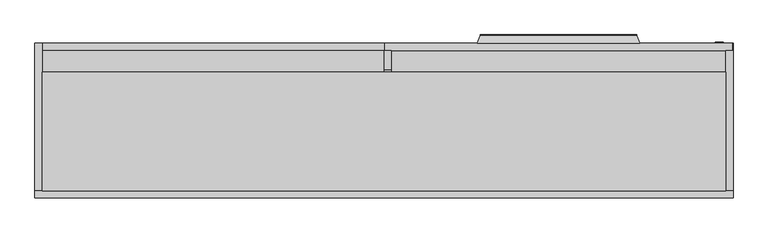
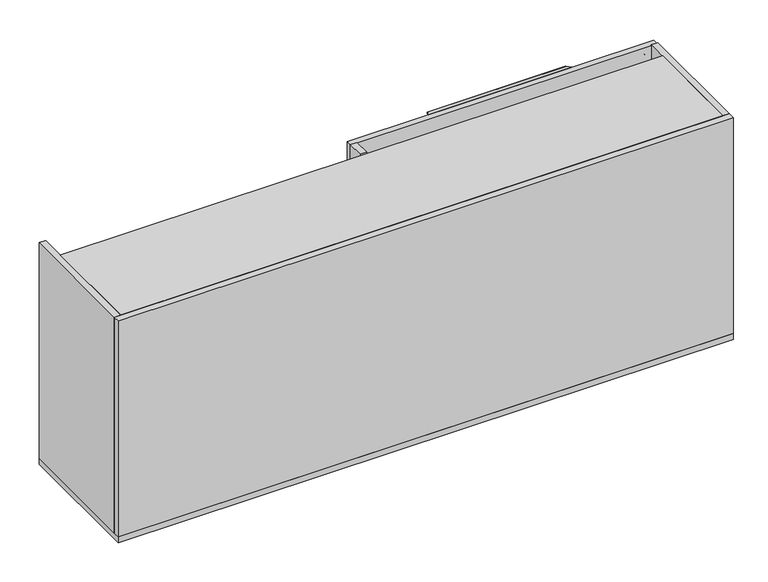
"""IFC4 building model written with IfcOpenShell, lengths in millimetres: furniture geometry, Haworth_BeHold_Modular_AttachedCredenza_StorageEnd : 2H - 72w - 36w Open - Proud Back."""

from ifc_helpers import new_model, si_unit, point, frame, frame_2d, origin, origin_with_axes, place, context, project, spatial, polyline, circle_curve, ellipse_curve, trimmed, segment, composite_curve, outline, extrude, source, transform, mapped, element, save
from ifc_brep_helpers import plane_surface, cylinder_surface, revolved_surface, advanced_brep


def furniture_0f168e3d(model_context):
    return source(origin(), model_context, "Body", "SolidModel", [
        advanced_brep(
        [(87.6158447, 495.3, 706.6279922), (94.220792, 513.44585, 696.4887354), (506.4608973, 513.44585, 696.4887354), (513.0658447, 495.3, 706.6279922), (513.0658447, 495.3, 708.025), (87.6158447, 495.3, 708.025), (505.7104778, 515.5074865, 701.1098982), (94.9712116, 515.5074865, 701.1098982)],
        [
            (0, 1),
            (1, 2),
            (2, 3),
            (3, 0),
            (3, 4),
            (4, 5),
            (5, 0),
            (4, 6),
            (6, 7),
            (7, 5),
            (1, 7, ellipse_curve(frame((94.6718293, 514.6849901, 698.7063783), z_axis=(0.9396859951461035, -0.34203834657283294, 0.0), x_axis=(0.3420383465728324, 0.9396859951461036, 0.0)), 2.7034093, 2.5403559)),
            (6, 2, ellipse_curve(frame((506.00986, 514.6849901, 698.7063783), z_axis=(-0.9396859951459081, -0.3420383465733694, 0.0), x_axis=(0.34203834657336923, -0.9396859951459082, 0.0)), 2.7034093, 2.5403559)),
        ],
        [
            plane_surface(frame((513.0658447, 513.44585, 696.4887354), z_axis=(0.0, -0.4877820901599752, -0.8729654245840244), x_axis=(-1.0, 0.0, 0.0))),
            plane_surface(frame((513.0658447, 495.3, 706.6279922), z_axis=(0.0, -1.0, 0.0), x_axis=(-1.0, 0.0, 0.0))),
            plane_surface(frame((513.0658447, 495.3, 708.025), z_axis=(0.0, 0.32377211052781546, 0.9461350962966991), x_axis=(-1.0, 0.0, 0.0))),
            cylinder_surface(frame((513.0658447, 514.6849901, 698.7063783), z_axis=(1.0, 0.0, 0.0), x_axis=(0.0, 1.0, 0.0)), 2.5403559),
            plane_surface(frame((96.1871678, 518.8480975, 720.725), z_axis=(-0.9396859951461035, 0.34203834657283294, 0.0), x_axis=(0.0, 0.0, -1.0))),
            plane_surface(frame((513.0658447, 495.3, 720.725), z_axis=(0.9396859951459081, 0.3420383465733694, 0.0), x_axis=(0.0, 0.0, -1.0))),
        ],
        [
            (0, [[1, 2, 3, 4]]),
            (1, [[5, 6, 7, -4]]),
            (2, [[8, 9, 10, -6]]),
            (3, [[11, -9, 12, -2]]),
            (4, [[-7, -10, -11, -1]]),
            (5, [[-12, -8, -5, -3]]),
        ],
    ),
        advanced_brep(
        [(713.0892944, 498.4742249, 665.95625), (721.0283447, 498.4742249, 665.95625), (728.967395, 498.4742249, 665.95625), (709.9150695, 495.3, 665.95625), (732.1416198, 495.3, 665.95625), (721.0283447, 495.3, 665.95625)],
        [
            (0, 1),
            (1, 2),
            (2, 0, circle_curve(frame((721.0283447, 498.4742249, 665.95625), z_axis=(0.0, 1.0, 0.0), x_axis=(1.0, 0.0, 0.0)), 7.9390503)),
            (0, 2, circle_curve(frame((721.0283447, 498.4742249, 665.95625), z_axis=(0.0, 1.0, 0.0), x_axis=(1.0, 0.0, 0.0)), 7.9390503)),
            (3, 0, circle_curve(frame((713.0892944, 495.3, 665.95625), z_axis=(0.0, 0.0, -1.0), x_axis=(1.0, 0.0, 0.0)), 3.1742249)),
            (2, 4, circle_curve(frame((728.967395, 495.3, 665.95625), z_axis=(0.0, 0.0, -1.0), x_axis=(-1.0, 0.0, 0.0)), 3.1742249)),
            (4, 3, circle_curve(frame((721.0283447, 495.3, 665.95625), z_axis=(0.0, 1.0, 0.0), x_axis=(1.0, 0.0, 0.0)), 11.1132751)),
            (3, 4, circle_curve(frame((721.0283447, 495.3, 665.95625), z_axis=(0.0, 1.0, 0.0), x_axis=(1.0, 0.0, 0.0)), 11.1132751)),
            (5, 3),
            (4, 5),
        ],
        [
            plane_surface(frame((721.0283447, 498.4742249, 665.95625), z_axis=(0.0, 1.0, 0.0), x_axis=(1.0, 0.0, 0.0))),
            revolved_surface(trimmed(ellipse_curve(frame((728.967395, 495.3, 665.95625), z_axis=(0.0, 0.0, -1.0), x_axis=(-1.0, 0.0, 0.0)), 3.1742249, 3.1742249), [point((728.967395, 498.4742249, 665.95625))], [point((732.1416198, 495.3, 665.95625))], True, "CARTESIAN"), (721.0283447, 481.3109205, 665.95625), (0.0, -1.0, 0.0)),
            plane_surface(frame((721.0283447, 495.3, 665.95625), z_axis=(0.0, -1.0, 0.0), x_axis=(1.0, 0.0, 0.0))),
        ],
        [
            (0, [[1, 2, 3]]),
            (0, [[-2, -1, 4]]),
            (1, [[5, -3, 6, 7]]),
            (1, [[-6, -4, -5, 8]]),
            (2, [[9, -7, 10]]),
            (2, [[-10, -8, -9]]),
        ],
    ),
        extrude(outline(polyline([(-155.2716553, 476.25), (-155.2716553, 495.3), (755.9533447, 495.3), (755.9533447, 476.25), (-155.2716553, 476.25)])), frame((0.0, 0.0, 373.0625), z_axis=(0.0, 0.0, 1.0), x_axis=(1.0, 0.0, 0.0)), (0.0, 0.0, 1.0), 334.9625),
        advanced_brep(
        [(87.6158447, 495.3, 368.4904922), (94.220792, 513.44585, 358.3512354), (506.4608973, 513.44585, 358.3512354), (513.0658447, 495.3, 368.4904922), (513.0658447, 495.3, 369.8875), (87.6158447, 495.3, 369.8875), (505.7104778, 515.5074865, 362.9723982), (94.9712116, 515.5074865, 362.9723982)],
        [
            (0, 1),
            (1, 2),
            (2, 3),
            (3, 0),
            (3, 4),
            (4, 5),
            (5, 0),
            (4, 6),
            (6, 7),
            (7, 5),
            (1, 7, ellipse_curve(frame((94.6718293, 514.6849901, 360.5688783), z_axis=(0.9396859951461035, -0.34203834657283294, 0.0), x_axis=(0.3420383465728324, 0.9396859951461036, 0.0)), 2.7034093, 2.5403559)),
            (6, 2, ellipse_curve(frame((506.00986, 514.6849901, 360.5688783), z_axis=(-0.9396859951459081, -0.3420383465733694, 0.0), x_axis=(0.34203834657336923, -0.9396859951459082, 0.0)), 2.7034093, 2.5403559)),
        ],
        [
            plane_surface(frame((513.0658447, 513.44585, 358.3512354), z_axis=(0.0, -0.4877820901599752, -0.8729654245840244), x_axis=(-1.0, 0.0, 0.0))),
            plane_surface(frame((513.0658447, 495.3, 368.4904922), z_axis=(0.0, -1.0, 0.0), x_axis=(-1.0, 0.0, 0.0))),
            plane_surface(frame((513.0658447, 495.3, 369.8875), z_axis=(0.0, 0.32377211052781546, 0.9461350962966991), x_axis=(-1.0, 0.0, 0.0))),
            cylinder_surface(frame((513.0658447, 514.6849901, 360.5688783), z_axis=(1.0, 0.0, 0.0), x_axis=(0.0, 1.0, 0.0)), 2.5403559),
            plane_surface(frame((96.1871678, 518.8480975, 382.5875), z_axis=(-0.9396859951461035, 0.34203834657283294, 0.0), x_axis=(0.0, 0.0, -1.0))),
            plane_surface(frame((513.0658447, 495.3, 382.5875), z_axis=(0.9396859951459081, 0.3420383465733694, 0.0), x_axis=(0.0, 0.0, -1.0))),
        ],
        [
            (0, [[1, 2, 3, 4]]),
            (1, [[5, 6, 7, -4]]),
            (2, [[8, 9, 10, -6]]),
            (3, [[11, -9, 12, -2]]),
            (4, [[-7, -10, -11, -1]]),
            (5, [[-12, -8, -5, -3]]),
        ],
    ),
        extrude(outline(polyline([(-155.2716553, 476.25), (-155.2716553, 495.3), (755.9533447, 495.3), (755.9533447, 476.25), (-155.2716553, 476.25)])), frame((0.0, 0.0, 34.925), z_axis=(0.0, 0.0, 1.0), x_axis=(1.0, 0.0, 0.0)), (0.0, 0.0, 1.0), 334.9625),
        extrude(outline(polyline([(425.45, 692.15), (425.45, 711.2), (476.25, 711.2), (476.25, 31.75), (107.95, 31.75), (107.95, 692.15), (425.45, 692.15)])), frame((-156.8591553, 0.0, 0.0), z_axis=(1.0, 0.0, 0.0), x_axis=(0.0, 1.0, 0.0)), (0.0, 0.0, 1.0), 19.05),
        extrude(outline(polyline([(-156.8591553, 107.95), (-1052.2091553, 107.95), (-1052.2091553, 476.25), (-156.8591553, 476.25), (-156.8591553, 107.95)])), frame((0.0, 0.0, 350.8375), z_axis=(0.0, 0.0, 1.0), x_axis=(1.0, 0.0, 0.0)), (0.0, 0.0, 1.0), 19.05),
        extrude(outline(polyline([(738.4908447, 107.95), (-1052.2091553, 107.95), (-1052.2091553, 419.1), (738.4908447, 419.1), (738.4908447, 107.95)])), frame((0.0, 0.0, 692.15), z_axis=(0.0, 0.0, 1.0), x_axis=(1.0, 0.0, 0.0)), (0.0, 0.0, 1.0), 19.05),
        extrude(outline(polyline([(757.5408447, 107.95), (757.5408447, 88.9), (-1071.2591553, 88.9), (-1071.2591553, 107.95), (757.5408447, 107.95)])), frame((0.0, 0.0, 31.75), z_axis=(0.0, 0.0, 1.0), x_axis=(1.0, 0.0, 0.0)), (0.0, 0.0, 1.0), 679.45),
        extrude(outline(polyline([(757.5408447, 107.95), (738.4908447, 107.95), (738.4908447, 476.25), (757.5408447, 476.25), (757.5408447, 107.95)])), frame((0.0, 0.0, 31.75), z_axis=(0.0, 0.0, 1.0), x_axis=(1.0, 0.0, 0.0)), (0.0, 0.0, 1.0), 679.45),
        extrude(outline(polyline([(-1071.2591553, 495.3), (-1052.2091553, 495.3), (-1052.2091553, 107.95), (-1071.2591553, 107.95), (-1071.2591553, 495.3)])), frame((0.0, 0.0, 31.75), z_axis=(0.0, 0.0, 1.0), x_axis=(1.0, 0.0, 0.0)), (0.0, 0.0, 1.0), 679.45),
        extrude(outline(polyline([(757.5408447, 88.9), (-1071.2591553, 88.9), (-1071.2591553, 495.3), (757.5408447, 495.3), (757.5408447, 88.9)])), frame((0.0, 0.0, 12.7), z_axis=(0.0, 0.0, 1.0), x_axis=(1.0, 0.0, 0.0)), (0.0, 0.0, 1.0), 19.05),
        extrude(outline(composite_curve([segment(trimmed(circle_curve(frame_2d((732.1408447, 114.3)), 6.35), [point((738.4908447, 114.3))], [point((732.1408447, 107.95))], False, "CARTESIAN"), True, "CONTINUOUS"), segment(polyline([(732.1408447, 107.95), (687.6408477, 107.95)]), True, "CONTINUOUS"), segment(trimmed(circle_curve(frame_2d((687.6408477, 114.3)), 6.35), [point((687.6408477, 107.95))], [point((681.2908477, 114.3))], False, "CARTESIAN"), True, "CONTINUOUS"), segment(polyline([(681.2908477, 114.3), (681.2908477, 125.7500763), (720.6907684, 165.1499969), (732.1408447, 165.1499969)]), True, "CONTINUOUS"), segment(trimmed(circle_curve(frame_2d((732.1408447, 158.7999969)), 6.35), [point((732.1408447, 165.1499969))], [point((738.4908447, 158.7999969))], False, "CARTESIAN"), True, "CONTINUOUS"), segment(polyline([(738.4908447, 158.7999969), (738.4908447, 114.3)]), True, "CONTINUOUS")], self_intersect=False)), origin_with_axes(), (0.0, 0.0, 1.0), 12.7),
        extrude(outline(composite_curve([segment(polyline([(738.4908447, 469.9), (738.4908447, 425.4000031)]), True, "CONTINUOUS"), segment(trimmed(circle_curve(frame_2d((732.1408447, 425.4000031)), 6.35), [point((738.4908447, 425.4000031))], [point((732.1408447, 419.0500031))], False, "CARTESIAN"), True, "CONTINUOUS"), segment(polyline([(732.1408447, 419.0500031), (720.6907684, 419.0500031), (681.2908477, 458.4499237), (681.2908477, 469.9)]), True, "CONTINUOUS"), segment(trimmed(circle_curve(frame_2d((687.6408477, 469.9)), 6.35), [point((681.2908477, 469.9))], [point((687.6408477, 476.25))], False, "CARTESIAN"), True, "CONTINUOUS"), segment(polyline([(687.6408477, 476.25), (732.1408447, 476.25)]), True, "CONTINUOUS"), segment(trimmed(circle_curve(frame_2d((732.1408447, 469.9)), 6.35), [point((732.1408447, 476.25))], [point((738.4908447, 469.9))], False, "CARTESIAN"), True, "CONTINUOUS")], self_intersect=False)), origin_with_axes(), (0.0, 0.0, 1.0), 12.7),
        extrude(outline(composite_curve([segment(polyline([(-1052.2091553, 114.3), (-1052.2091553, 158.7999969)]), True, "CONTINUOUS"), segment(trimmed(circle_curve(frame_2d((-1045.8591553, 158.7999969)), 6.35), [point((-1052.2091553, 158.7999969))], [point((-1045.8591553, 165.1499969))], False, "CARTESIAN"), True, "CONTINUOUS"), segment(polyline([(-1045.8591553, 165.1499969), (-1034.409079, 165.1499969), (-995.0091584, 125.7500763), (-995.0091584, 114.3)]), True, "CONTINUOUS"), segment(trimmed(circle_curve(frame_2d((-1001.3591584, 114.3)), 6.35), [point((-995.0091584, 114.3))], [point((-1001.3591584, 107.95))], False, "CARTESIAN"), True, "CONTINUOUS"), segment(polyline([(-1001.3591584, 107.95), (-1045.8591553, 107.95)]), True, "CONTINUOUS"), segment(trimmed(circle_curve(frame_2d((-1045.8591553, 114.3)), 6.35), [point((-1045.8591553, 107.95))], [point((-1052.2091553, 114.3))], False, "CARTESIAN"), True, "CONTINUOUS")], self_intersect=False)), origin_with_axes(), (0.0, 0.0, 1.0), 12.7),
        extrude(outline(composite_curve([segment(trimmed(circle_curve(frame_2d((-1045.8591553, 469.9)), 6.35), [point((-1052.2091553, 469.9))], [point((-1045.8591553, 476.25))], False, "CARTESIAN"), True, "CONTINUOUS"), segment(polyline([(-1045.8591553, 476.25), (-1001.3591584, 476.25)]), True, "CONTINUOUS"), segment(trimmed(circle_curve(frame_2d((-1001.3591584, 469.9)), 6.35), [point((-1001.3591584, 476.25))], [point((-995.0091584, 469.9))], False, "CARTESIAN"), True, "CONTINUOUS"), segment(polyline([(-995.0091584, 469.9), (-995.0091584, 458.4499237), (-1034.409079, 419.0500031), (-1045.8591553, 419.0500031)]), True, "CONTINUOUS"), segment(trimmed(circle_curve(frame_2d((-1045.8591553, 425.4000031)), 6.35), [point((-1045.8591553, 419.0500031))], [point((-1052.2091553, 425.4000031))], False, "CARTESIAN"), True, "CONTINUOUS"), segment(polyline([(-1052.2091553, 425.4000031), (-1052.2091553, 469.9)]), True, "CONTINUOUS")], self_intersect=False)), origin_with_axes(), (0.0, 0.0, 1.0), 12.7),
    ])


if __name__ == "__main__":
    model = new_model("IFC4")
    model_context = context("Model", 3, world=origin())
    ifc_project = project(units=[si_unit("LENGTHUNIT", "METRE", prefix="MILLI")], contexts=[model_context])
    site = spatial("IfcSite", under=ifc_project)
    building = spatial("IfcBuilding", under=site)
    placement = place(None, origin())
    furniture_shape = furniture_0f168e3d(model_context)
    element("IfcFurniture", 1, ObjectType="Haworth_BeHold_Modular_AttachedCredenza_StorageEnd : 2H - 72w - 36w Open - Proud Back", at=placement, inside=building, context=model_context, shape_type="MappedRepresentation", body=[
        mapped(furniture_shape, transform((0.0, 0.0, 0.0), x_axis=(1.0, 0.0, 0.0), y_axis=(0.0, 1.0, 0.0), z_axis=(0.0, 0.0, 1.0))),
    ])
    save(model, "model.ifc")
